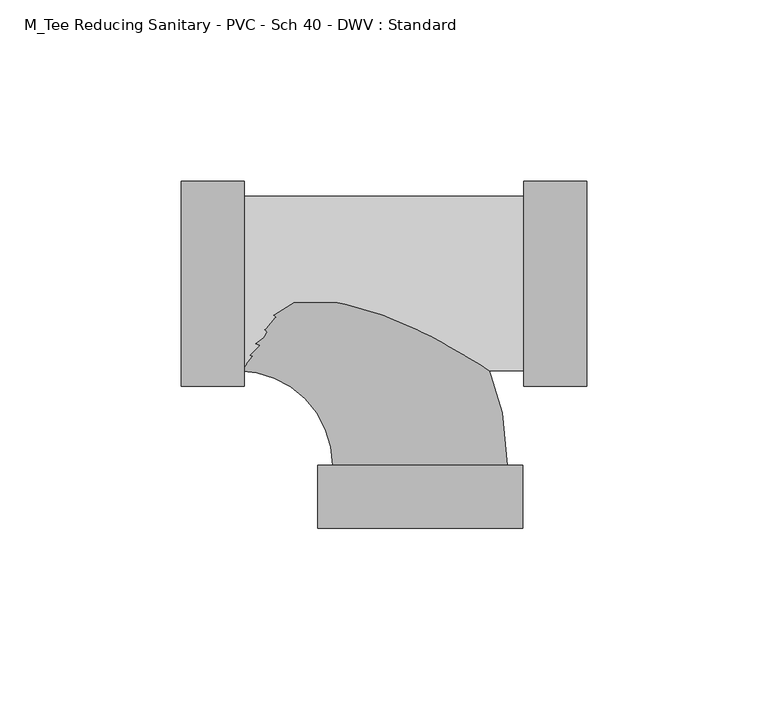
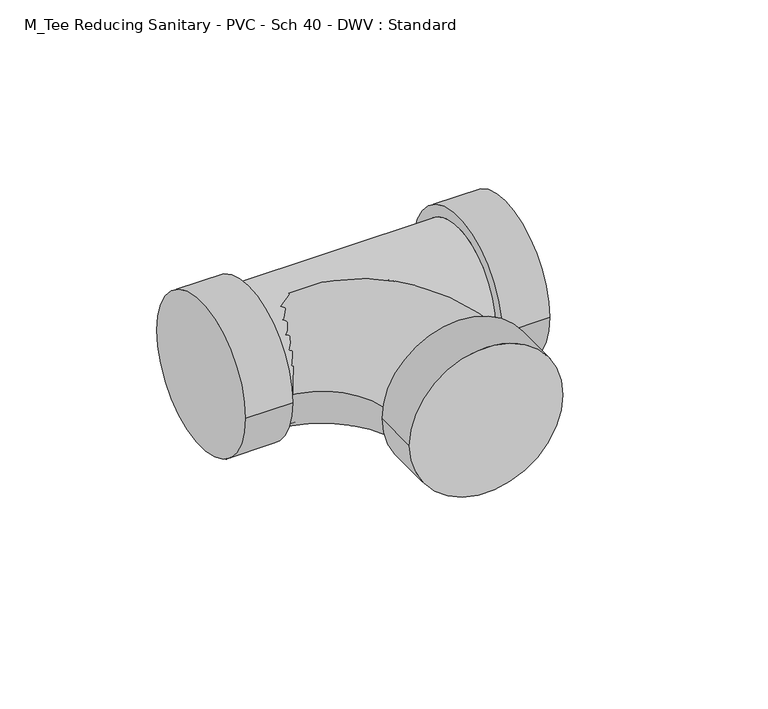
"""IFC4 building model written with IfcOpenShell, lengths in millimetres: pipe fitting geometry, M_Tee Reducing Sanitary - PVC - Sch 40 - DWV : Standard."""

from ifc_helpers import new_model, si_unit, point, frame, origin, place, context, project, spatial, circle_curve, ellipse_curve, trimmed, source, transform, mapped, element, save
from ifc_brep_helpers import plane_surface, cylinder_surface, revolved_surface, advanced_brep


def m_tee_reducing_sanitary_pvc_sch_40_dwv_standard_152067bf(model_context):
    return source(origin(), model_context, "Body", "AdvancedBrep", [
        advanced_brep(
        [(28.605725, -28.2829, 0.0), (28.605725, 28.2829, 0.0), (28.605725, -24.13, 0.0), (28.605725, 24.13, 0.0), (46.055525, -28.2829, 0.0), (46.055525, 28.2829, 0.0), (-48.5163062, 24.13, 0.0), (-48.5163062, -24.13, 0.0), (-65.9661062, -28.2829, 0.0), (-65.9661062, 28.2829, 0.0), (-48.5163062, -28.2829, 0.0), (-48.5163062, 28.2829, 0.0)],
        [
            (0, 1, circle_curve(frame((28.605725, 0.0, 0.0), z_axis=(-1.0, 0.0, 0.0), x_axis=(0.0, 1.0, 0.0)), 28.2829)),
            (1, 0, circle_curve(frame((28.605725, 0.0, 0.0), z_axis=(-1.0, 0.0, 0.0), x_axis=(0.0, 1.0, 0.0)), 28.2829)),
            (2, 3, circle_curve(frame((28.605725, 0.0, 0.0), z_axis=(1.0, 0.0, 0.0), x_axis=(0.0, 0.0, -1.0)), 24.13)),
            (3, 2, circle_curve(frame((28.605725, 0.0, 0.0), z_axis=(1.0, 0.0, 0.0), x_axis=(0.0, 0.0, 1.0)), 24.13)),
            (4, 5, circle_curve(frame((46.055525, 0.0, 0.0), z_axis=(1.0, 0.0, 0.0), x_axis=(0.0, 1.0, 0.0)), 28.2829)),
            (5, 4, circle_curve(frame((46.055525, 0.0, 0.0), z_axis=(1.0, 0.0, 0.0), x_axis=(0.0, 1.0, 0.0)), 28.2829)),
            (0, 4),
            (5, 1),
            (6, 3),
            (2, 7),
            (7, 6, circle_curve(frame((-48.5163062, 0.0, 0.0), z_axis=(1.0, 0.0, 0.0), x_axis=(0.0, 0.0, -1.0)), 24.13)),
            (6, 7, circle_curve(frame((-48.5163062, 0.0, 0.0), z_axis=(1.0, 0.0, 0.0), x_axis=(0.0, 0.0, 1.0)), 24.13)),
            (8, 9, circle_curve(frame((-65.9661062, 0.0, 0.0), z_axis=(-1.0, 0.0, 0.0), x_axis=(0.0, 1.0, 0.0)), 28.2829)),
            (9, 8, circle_curve(frame((-65.9661062, 0.0, 0.0), z_axis=(-1.0, 0.0, 0.0), x_axis=(0.0, 1.0, 0.0)), 28.2829)),
            (10, 11, circle_curve(frame((-48.5163062, 0.0, 0.0), z_axis=(1.0, 0.0, 0.0), x_axis=(0.0, 1.0, 0.0)), 28.2829)),
            (11, 10, circle_curve(frame((-48.5163062, 0.0, 0.0), z_axis=(1.0, 0.0, 0.0), x_axis=(0.0, 1.0, 0.0)), 28.2829)),
            (8, 10),
            (11, 9),
        ],
        [
            plane_surface(frame((28.605725, 0.0, 0.0), z_axis=(-1.0, 0.0, 0.0), x_axis=(0.0, 0.0, 1.0))),
            plane_surface(frame((46.055525, 0.0, 0.0), z_axis=(1.0, 0.0, 0.0), x_axis=(0.0, 0.0, 1.0))),
            cylinder_surface(frame((28.605725, 0.0, 0.0), z_axis=(-1.0, 0.0, 0.0), x_axis=(0.0, 1.0, 0.0)), 28.2829),
            cylinder_surface(frame((-48.5163062, 0.0, 0.0), z_axis=(1.0, 0.0, 0.0), x_axis=(0.0, 0.0, -1.0)), 24.13),
            cylinder_surface(frame((-48.5163062, 0.0, 0.0), z_axis=(1.0, 0.0, 0.0), x_axis=(0.0, 0.0, 1.0)), 24.13),
            plane_surface(frame((-65.9661062, 0.0, 0.0), z_axis=(-1.0, 0.0, 0.0), x_axis=(0.0, 0.0, 1.0))),
            plane_surface(frame((-48.5163062, 0.0, 0.0), z_axis=(1.0, 0.0, 0.0), x_axis=(0.0, 0.0, 1.0))),
            cylinder_surface(frame((-65.9661062, 0.0, 0.0), z_axis=(-1.0, 0.0, 0.0), x_axis=(0.0, 1.0, 0.0)), 28.2829),
        ],
        [
            (0, [[1, 2], [3, 4]]),
            (1, [[5, 6]]),
            (2, [[-1, 7, -6, 8]]),
            (2, [[-2, -8, -5, -7]]),
            (3, [[9, -3, 10, 11]]),
            (4, [[-9, 12, -10, -4]]),
            (5, [[13, 14]]),
            (6, [[15, 16], [-11, -12]]),
            (7, [[-13, 17, -16, 18]]),
            (7, [[-14, -18, -15, -17]]),
        ],
    ),
        advanced_brep(
        [(-28.2829, -50.1476563, 0.0), (28.2829, -50.1476563, 0.0), (24.13, -50.1476563, 0.0), (-24.13, -50.1476563, 0.0), (-28.2829, -67.5974563, 0.0), (28.2829, -67.5974563, 0.0), (-50.1476562, -24.13, 0.0), (-50.1476562, 24.13, 0.0)],
        [
            (0, 1, circle_curve(frame((0.0, -50.1476563, 0.0), z_axis=(0.0, 1.0, 0.0), x_axis=(1.0, 0.0, 0.0)), 28.2829)),
            (1, 0, circle_curve(frame((0.0, -50.1476563, 0.0), z_axis=(0.0, 1.0, 0.0), x_axis=(1.0, 0.0, 0.0)), 28.2829)),
            (2, 3, circle_curve(frame((0.0, -50.1476563, 0.0), z_axis=(0.0, -1.0, 0.0), x_axis=(1.0, 0.0, 0.0)), 24.13)),
            (3, 2, circle_curve(frame((0.0, -50.1476563, 0.0), z_axis=(0.0, -1.0, 0.0), x_axis=(1.0, 0.0, 0.0)), 24.13)),
            (4, 5, circle_curve(frame((0.0, -67.5974563, 0.0), z_axis=(0.0, -1.0, 0.0), x_axis=(1.0, 0.0, 0.0)), 28.2829)),
            (5, 4, circle_curve(frame((0.0, -67.5974563, 0.0), z_axis=(0.0, -1.0, 0.0), x_axis=(1.0, 0.0, 0.0)), 28.2829)),
            (0, 4),
            (5, 1),
            (6, 7, circle_curve(frame((-50.1476562, 0.0, 0.0), z_axis=(-1.0, 0.0, 0.0), x_axis=(0.0, 1.0, 0.0)), 24.13)),
            (7, 6, circle_curve(frame((-50.1476562, 0.0, 0.0), z_axis=(-1.0, 0.0, 0.0), x_axis=(0.0, 1.0, 0.0)), 24.13)),
            (6, 3, circle_curve(frame((-50.1476562, -50.1476563, 0.0), z_axis=(0.0, 0.0, -1.0), x_axis=(0.0, 1.0, 0.0)), 26.0176563)),
            (2, 7, circle_curve(frame((-50.1476562, -50.1476563, 0.0), z_axis=(0.0, 0.0, 1.0), x_axis=(0.0, 1.0, 0.0)), 74.2776563)),
        ],
        [
            plane_surface(frame((0.0, -50.1476563, 0.0), z_axis=(0.0, 1.0, 0.0), x_axis=(0.0, 0.0, 1.0))),
            plane_surface(frame((0.0, -67.5974563, 0.0), z_axis=(0.0, -1.0, 0.0), x_axis=(0.0, 0.0, 1.0))),
            cylinder_surface(frame((0.0, -50.1476563, 0.0), z_axis=(0.0, 1.0, 0.0), x_axis=(1.0, 0.0, 0.0)), 28.2829),
            plane_surface(frame((-50.1476562, 0.0, 0.0), z_axis=(-1.0, 0.0, 0.0), x_axis=(0.0, 0.0, 1.0))),
            revolved_surface(trimmed(ellipse_curve(frame((-50.1476562, 0.0, 0.0), z_axis=(-1.0, 0.0, 0.0), x_axis=(0.0, 1.0, 0.0)), 24.13, 24.13), [point((-50.1476562, -24.13, 0.0))], [point((-50.1476562, 24.13, 0.0))], True, "CARTESIAN"), (-50.1476562, -50.1476563, 0.0), (0.0, 0.0, -1.0)),
            revolved_surface(trimmed(ellipse_curve(frame((-50.1476562, 0.0, 0.0), z_axis=(-1.0, 0.0, 0.0), x_axis=(0.0, 1.0, 0.0)), 24.13, 24.13), [point((-50.1476562, 24.13, 0.0))], [point((-50.1476562, -24.13, 0.0))], True, "CARTESIAN"), (-50.1476562, -50.1476563, 0.0), (0.0, 0.0, -1.0)),
        ],
        [
            (0, [[1, 2], [3, 4]]),
            (1, [[5, 6]]),
            (2, [[-1, 7, -6, 8]]),
            (2, [[-2, -8, -5, -7]]),
            (3, [[9, 10]]),
            (4, [[-9, 11, -3, 12]]),
            (5, [[-10, -12, -4, -11]]),
        ],
    ),
    ])


if __name__ == "__main__":
    model = new_model("IFC4")
    model_context = context("Model", 3, world=origin())
    ifc_project = project(units=[si_unit("LENGTHUNIT", "METRE", prefix="MILLI")], contexts=[model_context])
    site = spatial("IfcSite", under=ifc_project)
    building = spatial("IfcBuilding", under=site)
    placement = place(None, origin())
    m_tee_reducing_sanitary_pvc_sch_40_dwv_standard_shape = m_tee_reducing_sanitary_pvc_sch_40_dwv_standard_152067bf(model_context)
    element("IfcPipeFitting", 1, ObjectType="M_Tee Reducing Sanitary - PVC - Sch 40 - DWV : Standard", at=placement, inside=building, context=model_context, shape_type="MappedRepresentation", body=[
        mapped(m_tee_reducing_sanitary_pvc_sch_40_dwv_standard_shape, transform((0.0, 0.0, 0.0), x_axis=(1.0, 0.0, 0.0), y_axis=(0.0, 1.0, 0.0), z_axis=(0.0, 0.0, 1.0))),
    ])
    save(model, "model.ifc")
